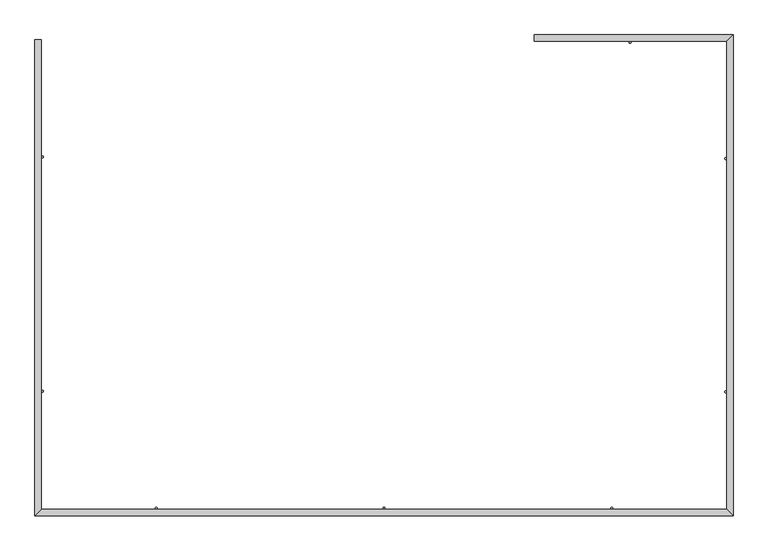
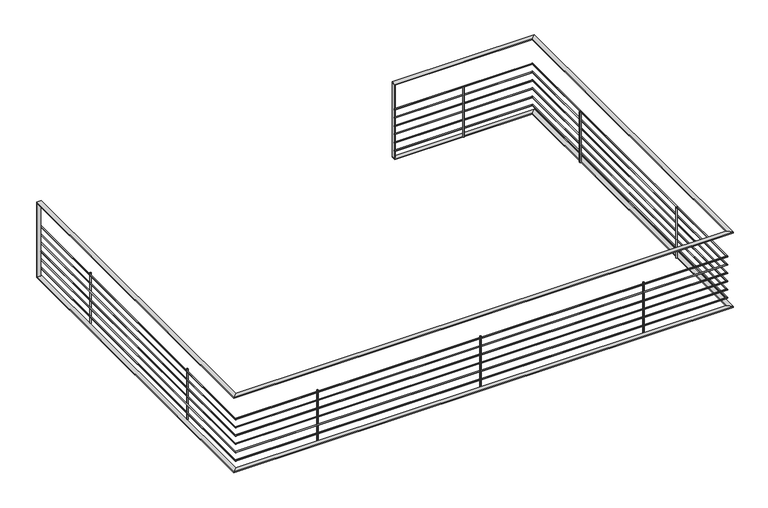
"""IFC4 building model written with IfcOpenShell, lengths in millimetres: railing geometry, Pletina y tubos."""

from ifc_helpers import new_model, si_unit, point, frame, frame_2d, origin, place, context, project, spatial, polyline, circle_curve, ellipse_curve, trimmed, segment, composite_curve, outline, extrude, faceted_brep, source, transform, mapped, element, save
from ifc_brep_helpers import plane_surface, cylinder_surface, advanced_brep


def railing_21b3ba1f(model_context):
    return source(origin(), model_context, "Body", "SolidModel", [
        faceted_brep([(-2143.1025942, -8292.6669037, 6310.0), (-2093.1025942, -8292.6669037, 6310.0), (-2093.1025942, -8292.6669037, 6300.0), (-2143.1025942, -8292.6669037, 6300.0), (-2143.1025942, -12182.6669037, 6310.0), (-2093.1025942, -12132.6669037, 6310.0), (-2093.1025942, -12132.6669037, 6300.0), (-2143.1025942, -12182.6669037, 6300.0), (3558.9398199, -12182.6669037, 6310.0), (3508.9398199, -12132.6669037, 6310.0), (3508.9398199, -12132.6669037, 6300.0), (3558.9398199, -12182.6669037, 6300.0), (3558.9398199, -8252.6669037, 6310.0), (3508.9398199, -8302.6669037, 6310.0), (3508.9398199, -8302.6669037, 6300.0), (3558.9398199, -8252.6669037, 6300.0), (1935.5350958, -8252.6669037, 6310.0), (1935.5350958, -8252.6669037, 6300.0), (1935.5350958, -8302.6669037, 6300.0), (1935.5350958, -8302.6669037, 6310.0)], [[[0, 1, 2, 3]], [[1, 0, 4, 5]], [[2, 1, 5, 6]], [[3, 2, 6, 7]], [[0, 3, 7, 4]], [[5, 4, 8, 9]], [[6, 5, 9, 10]], [[7, 6, 10, 11]], [[4, 7, 11, 8]], [[9, 8, 12, 13]], [[10, 9, 13, 14]], [[11, 10, 14, 15]], [[8, 11, 15, 12]], [[16, 17, 18, 19]], [[13, 12, 16, 19]], [[14, 13, 19, 18]], [[15, 14, 18, 17]], [[12, 15, 17, 16]]]),
        advanced_brep(
        [(-2092.1025942, -8292.6669037, 6405.0), (-2104.1025942, -8292.6669037, 6405.0), (-2092.1025942, -12131.6669037, 6405.0), (-2104.1025942, -12143.6669037, 6405.0), (3507.9398199, -12131.6669037, 6405.0), (3519.9398199, -12143.6669037, 6405.0), (3507.9398199, -8303.6669037, 6405.0), (3519.9398199, -8291.6669037, 6405.0), (1935.5350958, -8303.6669037, 6405.0), (1935.5350958, -8291.6669037, 6405.0)],
        [
            (0, 1, circle_curve(frame((-2098.1025942, -8292.6669037, 6405.0), z_axis=(0.0, 1.0, 0.0), x_axis=(-1.0, 0.0, 0.0)), 6.0)),
            (1, 0, circle_curve(frame((-2098.1025942, -8292.6669037, 6405.0), z_axis=(0.0, 1.0, 0.0), x_axis=(-1.0, 0.0, 0.0)), 6.0)),
            (0, 2),
            (2, 3, ellipse_curve(frame((-2098.1025942, -12137.6669037, 6405.0), z_axis=(-0.7071067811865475, 0.7071067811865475, 0.0), x_axis=(0.7071067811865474, 0.7071067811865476, 0.0)), 8.4852814, 6.0)),
            (3, 1),
            (3, 2, ellipse_curve(frame((-2098.1025942, -12137.6669037, 6405.0), z_axis=(-0.7071067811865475, 0.7071067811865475, 0.0), x_axis=(0.7071067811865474, 0.7071067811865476, 0.0)), 8.4852814, 6.0)),
            (2, 4),
            (4, 5, ellipse_curve(frame((3513.9398199, -12137.6669037, 6405.0), z_axis=(-0.7071067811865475, -0.7071067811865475, 0.0), x_axis=(-0.7071067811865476, 0.7071067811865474, 0.0)), 8.4852814, 6.0)),
            (5, 3),
            (5, 4, ellipse_curve(frame((3513.9398199, -12137.6669037, 6405.0), z_axis=(-0.7071067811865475, -0.7071067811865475, 0.0), x_axis=(-0.7071067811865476, 0.7071067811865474, 0.0)), 8.4852814, 6.0)),
            (4, 6),
            (6, 7, ellipse_curve(frame((3513.9398199, -8297.6669037, 6405.0), z_axis=(0.7071067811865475, -0.7071067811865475, 0.0), x_axis=(-0.7071067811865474, -0.7071067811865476, 0.0)), 8.4852814, 6.0)),
            (7, 5),
            (7, 6, ellipse_curve(frame((3513.9398199, -8297.6669037, 6405.0), z_axis=(0.7071067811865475, -0.7071067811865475, 0.0), x_axis=(-0.7071067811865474, -0.7071067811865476, 0.0)), 8.4852814, 6.0)),
            (8, 9, circle_curve(frame((1935.5350958, -8297.6669037, 6405.0), z_axis=(-1.0, 0.0, 0.0), x_axis=(0.0, 1.0, 0.0)), 6.0)),
            (9, 8, circle_curve(frame((1935.5350958, -8297.6669037, 6405.0), z_axis=(-1.0, 0.0, 0.0), x_axis=(0.0, 1.0, 0.0)), 6.0)),
            (6, 8),
            (9, 7),
        ],
        [
            plane_surface(frame((-2098.1025942, -8292.6669037, 6405.0), z_axis=(0.0, 1.0, 0.0), x_axis=(0.0, 0.0, -1.0))),
            cylinder_surface(frame((-2098.1025942, -8292.6669037, 6405.0), z_axis=(0.0, 1.0, 0.0), x_axis=(-1.0, 0.0, 0.0)), 6.0),
            cylinder_surface(frame((-2098.1025942, -12137.6669037, 6405.0), z_axis=(-1.0, 0.0, 0.0), x_axis=(0.0, -1.0, 0.0)), 6.0),
            cylinder_surface(frame((3513.9398199, -12137.6669037, 6405.0), z_axis=(0.0, -1.0, 0.0), x_axis=(1.0, 0.0, 0.0)), 6.0),
            plane_surface(frame((1935.5350958, -8297.6669037, 6405.0), z_axis=(-1.0, 0.0, 0.0), x_axis=(0.0, -1.0, 0.0))),
            cylinder_surface(frame((3513.9398199, -8297.6669037, 6405.0), z_axis=(1.0, 0.0, 0.0), x_axis=(0.0, 1.0, 0.0)), 6.0),
        ],
        [
            (0, [[1, 2]]),
            (1, [[-1, 3, 4, 5]]),
            (1, [[-2, -5, 6, -3]]),
            (2, [[-4, 7, 8, 9]]),
            (2, [[-6, -9, 10, -7]]),
            (3, [[-8, 11, 12, 13]]),
            (3, [[-10, -13, 14, -11]]),
            (4, [[15, 16]]),
            (5, [[-12, 17, -16, 18]]),
            (5, [[-14, -18, -15, -17]]),
        ],
    ),
        advanced_brep(
        [(-2092.1025942, -8292.6669037, 6505.0), (-2104.1025942, -8292.6669037, 6505.0), (-2092.1025942, -12131.6669037, 6505.0), (-2104.1025942, -12143.6669037, 6505.0), (3507.9398199, -12131.6669037, 6505.0), (3519.9398199, -12143.6669037, 6505.0), (3507.9398199, -8303.6669037, 6505.0), (3519.9398199, -8291.6669037, 6505.0), (1935.5350958, -8303.6669037, 6505.0), (1935.5350958, -8291.6669037, 6505.0)],
        [
            (0, 1, circle_curve(frame((-2098.1025942, -8292.6669037, 6505.0), z_axis=(0.0, 1.0, 0.0), x_axis=(-1.0, 0.0, 0.0)), 6.0)),
            (1, 0, circle_curve(frame((-2098.1025942, -8292.6669037, 6505.0), z_axis=(0.0, 1.0, 0.0), x_axis=(-1.0, 0.0, 0.0)), 6.0)),
            (0, 2),
            (2, 3, ellipse_curve(frame((-2098.1025942, -12137.6669037, 6505.0), z_axis=(-0.7071067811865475, 0.7071067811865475, 0.0), x_axis=(0.7071067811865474, 0.7071067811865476, 0.0)), 8.4852814, 6.0)),
            (3, 1),
            (3, 2, ellipse_curve(frame((-2098.1025942, -12137.6669037, 6505.0), z_axis=(-0.7071067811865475, 0.7071067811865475, 0.0), x_axis=(0.7071067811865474, 0.7071067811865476, 0.0)), 8.4852814, 6.0)),
            (2, 4),
            (4, 5, ellipse_curve(frame((3513.9398199, -12137.6669037, 6505.0), z_axis=(-0.7071067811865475, -0.7071067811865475, 0.0), x_axis=(-0.7071067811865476, 0.7071067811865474, 0.0)), 8.4852814, 6.0)),
            (5, 3),
            (5, 4, ellipse_curve(frame((3513.9398199, -12137.6669037, 6505.0), z_axis=(-0.7071067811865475, -0.7071067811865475, 0.0), x_axis=(-0.7071067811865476, 0.7071067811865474, 0.0)), 8.4852814, 6.0)),
            (4, 6),
            (6, 7, ellipse_curve(frame((3513.9398199, -8297.6669037, 6505.0), z_axis=(0.7071067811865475, -0.7071067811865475, 0.0), x_axis=(-0.7071067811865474, -0.7071067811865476, 0.0)), 8.4852814, 6.0)),
            (7, 5),
            (7, 6, ellipse_curve(frame((3513.9398199, -8297.6669037, 6505.0), z_axis=(0.7071067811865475, -0.7071067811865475, 0.0), x_axis=(-0.7071067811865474, -0.7071067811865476, 0.0)), 8.4852814, 6.0)),
            (8, 9, circle_curve(frame((1935.5350958, -8297.6669037, 6505.0), z_axis=(-1.0, 0.0, 0.0), x_axis=(0.0, 1.0, 0.0)), 6.0)),
            (9, 8, circle_curve(frame((1935.5350958, -8297.6669037, 6505.0), z_axis=(-1.0, 0.0, 0.0), x_axis=(0.0, 1.0, 0.0)), 6.0)),
            (6, 8),
            (9, 7),
        ],
        [
            plane_surface(frame((-2098.1025942, -8292.6669037, 6505.0), z_axis=(0.0, 1.0, 0.0), x_axis=(0.0, 0.0, -1.0))),
            cylinder_surface(frame((-2098.1025942, -8292.6669037, 6505.0), z_axis=(0.0, 1.0, 0.0), x_axis=(-1.0, 0.0, 0.0)), 6.0),
            cylinder_surface(frame((-2098.1025942, -12137.6669037, 6505.0), z_axis=(-1.0, 0.0, 0.0), x_axis=(0.0, -1.0, 0.0)), 6.0),
            cylinder_surface(frame((3513.9398199, -12137.6669037, 6505.0), z_axis=(0.0, -1.0, 0.0), x_axis=(1.0, 0.0, 0.0)), 6.0),
            plane_surface(frame((1935.5350958, -8297.6669037, 6505.0), z_axis=(-1.0, 0.0, 0.0), x_axis=(0.0, -1.0, 0.0))),
            cylinder_surface(frame((3513.9398199, -8297.6669037, 6505.0), z_axis=(1.0, 0.0, 0.0), x_axis=(0.0, 1.0, 0.0)), 6.0),
        ],
        [
            (0, [[1, 2]]),
            (1, [[-1, 3, 4, 5]]),
            (1, [[-2, -5, 6, -3]]),
            (2, [[-4, 7, 8, 9]]),
            (2, [[-6, -9, 10, -7]]),
            (3, [[-8, 11, 12, 13]]),
            (3, [[-10, -13, 14, -11]]),
            (4, [[15, 16]]),
            (5, [[-12, 17, -16, 18]]),
            (5, [[-14, -18, -15, -17]]),
        ],
    ),
        advanced_brep(
        [(-2092.1025942, -8292.6669037, 6605.0), (-2104.1025942, -8292.6669037, 6605.0), (-2092.1025942, -12131.6669037, 6605.0), (-2104.1025942, -12143.6669037, 6605.0), (3507.9398199, -12131.6669037, 6605.0), (3519.9398199, -12143.6669037, 6605.0), (3507.9398199, -8303.6669037, 6605.0), (3519.9398199, -8291.6669037, 6605.0), (1935.5350958, -8303.6669037, 6605.0), (1935.5350958, -8291.6669037, 6605.0)],
        [
            (0, 1, circle_curve(frame((-2098.1025942, -8292.6669037, 6605.0), z_axis=(0.0, 1.0, 0.0), x_axis=(-1.0, 0.0, 0.0)), 6.0)),
            (1, 0, circle_curve(frame((-2098.1025942, -8292.6669037, 6605.0), z_axis=(0.0, 1.0, 0.0), x_axis=(-1.0, 0.0, 0.0)), 6.0)),
            (0, 2),
            (2, 3, ellipse_curve(frame((-2098.1025942, -12137.6669037, 6605.0), z_axis=(-0.7071067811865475, 0.7071067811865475, 0.0), x_axis=(0.7071067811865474, 0.7071067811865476, 0.0)), 8.4852814, 6.0)),
            (3, 1),
            (3, 2, ellipse_curve(frame((-2098.1025942, -12137.6669037, 6605.0), z_axis=(-0.7071067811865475, 0.7071067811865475, 0.0), x_axis=(0.7071067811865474, 0.7071067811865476, 0.0)), 8.4852814, 6.0)),
            (2, 4),
            (4, 5, ellipse_curve(frame((3513.9398199, -12137.6669037, 6605.0), z_axis=(-0.7071067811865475, -0.7071067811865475, 0.0), x_axis=(-0.7071067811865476, 0.7071067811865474, 0.0)), 8.4852814, 6.0)),
            (5, 3),
            (5, 4, ellipse_curve(frame((3513.9398199, -12137.6669037, 6605.0), z_axis=(-0.7071067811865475, -0.7071067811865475, 0.0), x_axis=(-0.7071067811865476, 0.7071067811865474, 0.0)), 8.4852814, 6.0)),
            (4, 6),
            (6, 7, ellipse_curve(frame((3513.9398199, -8297.6669037, 6605.0), z_axis=(0.7071067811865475, -0.7071067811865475, 0.0), x_axis=(-0.7071067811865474, -0.7071067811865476, 0.0)), 8.4852814, 6.0)),
            (7, 5),
            (7, 6, ellipse_curve(frame((3513.9398199, -8297.6669037, 6605.0), z_axis=(0.7071067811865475, -0.7071067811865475, 0.0), x_axis=(-0.7071067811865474, -0.7071067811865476, 0.0)), 8.4852814, 6.0)),
            (8, 9, circle_curve(frame((1935.5350958, -8297.6669037, 6605.0), z_axis=(-1.0, 0.0, 0.0), x_axis=(0.0, 1.0, 0.0)), 6.0)),
            (9, 8, circle_curve(frame((1935.5350958, -8297.6669037, 6605.0), z_axis=(-1.0, 0.0, 0.0), x_axis=(0.0, 1.0, 0.0)), 6.0)),
            (6, 8),
            (9, 7),
        ],
        [
            plane_surface(frame((-2098.1025942, -8292.6669037, 6605.0), z_axis=(0.0, 1.0, 0.0), x_axis=(0.0, 0.0, -1.0))),
            cylinder_surface(frame((-2098.1025942, -8292.6669037, 6605.0), z_axis=(0.0, 1.0, 0.0), x_axis=(-1.0, 0.0, 0.0)), 6.0),
            cylinder_surface(frame((-2098.1025942, -12137.6669037, 6605.0), z_axis=(-1.0, 0.0, 0.0), x_axis=(0.0, -1.0, 0.0)), 6.0),
            cylinder_surface(frame((3513.9398199, -12137.6669037, 6605.0), z_axis=(0.0, -1.0, 0.0), x_axis=(1.0, 0.0, 0.0)), 6.0),
            plane_surface(frame((1935.5350958, -8297.6669037, 6605.0), z_axis=(-1.0, 0.0, 0.0), x_axis=(0.0, -1.0, 0.0))),
            cylinder_surface(frame((3513.9398199, -8297.6669037, 6605.0), z_axis=(1.0, 0.0, 0.0), x_axis=(0.0, 1.0, 0.0)), 6.0),
        ],
        [
            (0, [[1, 2]]),
            (1, [[-1, 3, 4, 5]]),
            (1, [[-2, -5, 6, -3]]),
            (2, [[-4, 7, 8, 9]]),
            (2, [[-6, -9, 10, -7]]),
            (3, [[-8, 11, 12, 13]]),
            (3, [[-10, -13, 14, -11]]),
            (4, [[15, 16]]),
            (5, [[-12, 17, -16, 18]]),
            (5, [[-14, -18, -15, -17]]),
        ],
    ),
        advanced_brep(
        [(-2092.1025942, -8292.6669037, 6705.0), (-2104.1025942, -8292.6669037, 6705.0), (-2092.1025942, -12131.6669037, 6705.0), (-2104.1025942, -12143.6669037, 6705.0), (3507.9398199, -12131.6669037, 6705.0), (3519.9398199, -12143.6669037, 6705.0), (3507.9398199, -8303.6669037, 6705.0), (3519.9398199, -8291.6669037, 6705.0), (1935.5350958, -8303.6669037, 6705.0), (1935.5350958, -8291.6669037, 6705.0)],
        [
            (0, 1, circle_curve(frame((-2098.1025942, -8292.6669037, 6705.0), z_axis=(0.0, 1.0, 0.0), x_axis=(-1.0, 0.0, 0.0)), 6.0)),
            (1, 0, circle_curve(frame((-2098.1025942, -8292.6669037, 6705.0), z_axis=(0.0, 1.0, 0.0), x_axis=(-1.0, 0.0, 0.0)), 6.0)),
            (0, 2),
            (2, 3, ellipse_curve(frame((-2098.1025942, -12137.6669037, 6705.0), z_axis=(-0.7071067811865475, 0.7071067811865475, 0.0), x_axis=(0.7071067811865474, 0.7071067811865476, 0.0)), 8.4852814, 6.0)),
            (3, 1),
            (3, 2, ellipse_curve(frame((-2098.1025942, -12137.6669037, 6705.0), z_axis=(-0.7071067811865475, 0.7071067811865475, 0.0), x_axis=(0.7071067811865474, 0.7071067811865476, 0.0)), 8.4852814, 6.0)),
            (2, 4),
            (4, 5, ellipse_curve(frame((3513.9398199, -12137.6669037, 6705.0), z_axis=(-0.7071067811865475, -0.7071067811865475, 0.0), x_axis=(-0.7071067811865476, 0.7071067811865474, 0.0)), 8.4852814, 6.0)),
            (5, 3),
            (5, 4, ellipse_curve(frame((3513.9398199, -12137.6669037, 6705.0), z_axis=(-0.7071067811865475, -0.7071067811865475, 0.0), x_axis=(-0.7071067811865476, 0.7071067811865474, 0.0)), 8.4852814, 6.0)),
            (4, 6),
            (6, 7, ellipse_curve(frame((3513.9398199, -8297.6669037, 6705.0), z_axis=(0.7071067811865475, -0.7071067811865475, 0.0), x_axis=(-0.7071067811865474, -0.7071067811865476, 0.0)), 8.4852814, 6.0)),
            (7, 5),
            (7, 6, ellipse_curve(frame((3513.9398199, -8297.6669037, 6705.0), z_axis=(0.7071067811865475, -0.7071067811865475, 0.0), x_axis=(-0.7071067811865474, -0.7071067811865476, 0.0)), 8.4852814, 6.0)),
            (8, 9, circle_curve(frame((1935.5350958, -8297.6669037, 6705.0), z_axis=(-1.0, 0.0, 0.0), x_axis=(0.0, 1.0, 0.0)), 6.0)),
            (9, 8, circle_curve(frame((1935.5350958, -8297.6669037, 6705.0), z_axis=(-1.0, 0.0, 0.0), x_axis=(0.0, 1.0, 0.0)), 6.0)),
            (6, 8),
            (9, 7),
        ],
        [
            plane_surface(frame((-2098.1025942, -8292.6669037, 6705.0), z_axis=(0.0, 1.0, 0.0), x_axis=(0.0, 0.0, -1.0))),
            cylinder_surface(frame((-2098.1025942, -8292.6669037, 6705.0), z_axis=(0.0, 1.0, 0.0), x_axis=(-1.0, 0.0, 0.0)), 6.0),
            cylinder_surface(frame((-2098.1025942, -12137.6669037, 6705.0), z_axis=(-1.0, 0.0, 0.0), x_axis=(0.0, -1.0, 0.0)), 6.0),
            cylinder_surface(frame((3513.9398199, -12137.6669037, 6705.0), z_axis=(0.0, -1.0, 0.0), x_axis=(1.0, 0.0, 0.0)), 6.0),
            plane_surface(frame((1935.5350958, -8297.6669037, 6705.0), z_axis=(-1.0, 0.0, 0.0), x_axis=(0.0, -1.0, 0.0))),
            cylinder_surface(frame((3513.9398199, -8297.6669037, 6705.0), z_axis=(1.0, 0.0, 0.0), x_axis=(0.0, 1.0, 0.0)), 6.0),
        ],
        [
            (0, [[1, 2]]),
            (1, [[-1, 3, 4, 5]]),
            (1, [[-2, -5, 6, -3]]),
            (2, [[-4, 7, 8, 9]]),
            (2, [[-6, -9, 10, -7]]),
            (3, [[-8, 11, 12, 13]]),
            (3, [[-10, -13, 14, -11]]),
            (4, [[15, 16]]),
            (5, [[-12, 17, -16, 18]]),
            (5, [[-14, -18, -15, -17]]),
        ],
    ),
        advanced_brep(
        [(-2092.1025942, -8292.6669037, 6805.0), (-2104.1025942, -8292.6669037, 6805.0), (-2092.1025942, -12131.6669037, 6805.0), (-2104.1025942, -12143.6669037, 6805.0), (3507.9398199, -12131.6669037, 6805.0), (3519.9398199, -12143.6669037, 6805.0), (3507.9398199, -8303.6669037, 6805.0), (3519.9398199, -8291.6669037, 6805.0), (1935.5350958, -8303.6669037, 6805.0), (1935.5350958, -8291.6669037, 6805.0)],
        [
            (0, 1, circle_curve(frame((-2098.1025942, -8292.6669037, 6805.0), z_axis=(0.0, 1.0, 0.0), x_axis=(-1.0, 0.0, 0.0)), 6.0)),
            (1, 0, circle_curve(frame((-2098.1025942, -8292.6669037, 6805.0), z_axis=(0.0, 1.0, 0.0), x_axis=(-1.0, 0.0, 0.0)), 6.0)),
            (0, 2),
            (2, 3, ellipse_curve(frame((-2098.1025942, -12137.6669037, 6805.0), z_axis=(-0.7071067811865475, 0.7071067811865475, 0.0), x_axis=(0.7071067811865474, 0.7071067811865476, 0.0)), 8.4852814, 6.0)),
            (3, 1),
            (3, 2, ellipse_curve(frame((-2098.1025942, -12137.6669037, 6805.0), z_axis=(-0.7071067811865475, 0.7071067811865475, 0.0), x_axis=(0.7071067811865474, 0.7071067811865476, 0.0)), 8.4852814, 6.0)),
            (2, 4),
            (4, 5, ellipse_curve(frame((3513.9398199, -12137.6669037, 6805.0), z_axis=(-0.7071067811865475, -0.7071067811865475, 0.0), x_axis=(-0.7071067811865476, 0.7071067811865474, 0.0)), 8.4852814, 6.0)),
            (5, 3),
            (5, 4, ellipse_curve(frame((3513.9398199, -12137.6669037, 6805.0), z_axis=(-0.7071067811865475, -0.7071067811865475, 0.0), x_axis=(-0.7071067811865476, 0.7071067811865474, 0.0)), 8.4852814, 6.0)),
            (4, 6),
            (6, 7, ellipse_curve(frame((3513.9398199, -8297.6669037, 6805.0), z_axis=(0.7071067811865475, -0.7071067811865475, 0.0), x_axis=(-0.7071067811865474, -0.7071067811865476, 0.0)), 8.4852814, 6.0)),
            (7, 5),
            (7, 6, ellipse_curve(frame((3513.9398199, -8297.6669037, 6805.0), z_axis=(0.7071067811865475, -0.7071067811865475, 0.0), x_axis=(-0.7071067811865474, -0.7071067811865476, 0.0)), 8.4852814, 6.0)),
            (8, 9, circle_curve(frame((1935.5350958, -8297.6669037, 6805.0), z_axis=(-1.0, 0.0, 0.0), x_axis=(0.0, 1.0, 0.0)), 6.0)),
            (9, 8, circle_curve(frame((1935.5350958, -8297.6669037, 6805.0), z_axis=(-1.0, 0.0, 0.0), x_axis=(0.0, 1.0, 0.0)), 6.0)),
            (6, 8),
            (9, 7),
        ],
        [
            plane_surface(frame((-2098.1025942, -8292.6669037, 6805.0), z_axis=(0.0, 1.0, 0.0), x_axis=(0.0, 0.0, -1.0))),
            cylinder_surface(frame((-2098.1025942, -8292.6669037, 6805.0), z_axis=(0.0, 1.0, 0.0), x_axis=(-1.0, 0.0, 0.0)), 6.0),
            cylinder_surface(frame((-2098.1025942, -12137.6669037, 6805.0), z_axis=(-1.0, 0.0, 0.0), x_axis=(0.0, -1.0, 0.0)), 6.0),
            cylinder_surface(frame((3513.9398199, -12137.6669037, 6805.0), z_axis=(0.0, -1.0, 0.0), x_axis=(1.0, 0.0, 0.0)), 6.0),
            plane_surface(frame((1935.5350958, -8297.6669037, 6805.0), z_axis=(-1.0, 0.0, 0.0), x_axis=(0.0, -1.0, 0.0))),
            cylinder_surface(frame((3513.9398199, -8297.6669037, 6805.0), z_axis=(1.0, 0.0, 0.0), x_axis=(0.0, 1.0, 0.0)), 6.0),
        ],
        [
            (0, [[1, 2]]),
            (1, [[-1, 3, 4, 5]]),
            (1, [[-2, -5, 6, -3]]),
            (2, [[-4, 7, 8, 9]]),
            (2, [[-6, -9, 10, -7]]),
            (3, [[-8, 11, 12, 13]]),
            (3, [[-10, -13, 14, -11]]),
            (4, [[15, 16]]),
            (5, [[-12, 17, -16, 18]]),
            (5, [[-14, -18, -15, -17]]),
        ],
    ),
        advanced_brep(
        [(-2092.1025942, -8292.6669037, 6905.0), (-2104.1025942, -8292.6669037, 6905.0), (-2092.1025942, -12131.6669037, 6905.0), (-2104.1025942, -12143.6669037, 6905.0), (3507.9398199, -12131.6669037, 6905.0), (3519.9398199, -12143.6669037, 6905.0), (3507.9398199, -8303.6669037, 6905.0), (3519.9398199, -8291.6669037, 6905.0), (1935.5350958, -8303.6669037, 6905.0), (1935.5350958, -8291.6669037, 6905.0)],
        [
            (0, 1, circle_curve(frame((-2098.1025942, -8292.6669037, 6905.0), z_axis=(0.0, 1.0, 0.0), x_axis=(-1.0, 0.0, 0.0)), 6.0)),
            (1, 0, circle_curve(frame((-2098.1025942, -8292.6669037, 6905.0), z_axis=(0.0, 1.0, 0.0), x_axis=(-1.0, 0.0, 0.0)), 6.0)),
            (0, 2),
            (2, 3, ellipse_curve(frame((-2098.1025942, -12137.6669037, 6905.0), z_axis=(-0.7071067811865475, 0.7071067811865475, 0.0), x_axis=(0.7071067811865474, 0.7071067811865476, 0.0)), 8.4852814, 6.0)),
            (3, 1),
            (3, 2, ellipse_curve(frame((-2098.1025942, -12137.6669037, 6905.0), z_axis=(-0.7071067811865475, 0.7071067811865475, 0.0), x_axis=(0.7071067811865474, 0.7071067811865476, 0.0)), 8.4852814, 6.0)),
            (2, 4),
            (4, 5, ellipse_curve(frame((3513.9398199, -12137.6669037, 6905.0), z_axis=(-0.7071067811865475, -0.7071067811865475, 0.0), x_axis=(-0.7071067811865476, 0.7071067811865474, 0.0)), 8.4852814, 6.0)),
            (5, 3),
            (5, 4, ellipse_curve(frame((3513.9398199, -12137.6669037, 6905.0), z_axis=(-0.7071067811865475, -0.7071067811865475, 0.0), x_axis=(-0.7071067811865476, 0.7071067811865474, 0.0)), 8.4852814, 6.0)),
            (4, 6),
            (6, 7, ellipse_curve(frame((3513.9398199, -8297.6669037, 6905.0), z_axis=(0.7071067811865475, -0.7071067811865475, 0.0), x_axis=(-0.7071067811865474, -0.7071067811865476, 0.0)), 8.4852814, 6.0)),
            (7, 5),
            (7, 6, ellipse_curve(frame((3513.9398199, -8297.6669037, 6905.0), z_axis=(0.7071067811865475, -0.7071067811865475, 0.0), x_axis=(-0.7071067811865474, -0.7071067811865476, 0.0)), 8.4852814, 6.0)),
            (8, 9, circle_curve(frame((1935.5350958, -8297.6669037, 6905.0), z_axis=(-1.0, 0.0, 0.0), x_axis=(0.0, 1.0, 0.0)), 6.0)),
            (9, 8, circle_curve(frame((1935.5350958, -8297.6669037, 6905.0), z_axis=(-1.0, 0.0, 0.0), x_axis=(0.0, 1.0, 0.0)), 6.0)),
            (6, 8),
            (9, 7),
        ],
        [
            plane_surface(frame((-2098.1025942, -8292.6669037, 6905.0), z_axis=(0.0, 1.0, 0.0), x_axis=(0.0, 0.0, -1.0))),
            cylinder_surface(frame((-2098.1025942, -8292.6669037, 6905.0), z_axis=(0.0, 1.0, 0.0), x_axis=(-1.0, 0.0, 0.0)), 6.0),
            cylinder_surface(frame((-2098.1025942, -12137.6669037, 6905.0), z_axis=(-1.0, 0.0, 0.0), x_axis=(0.0, -1.0, 0.0)), 6.0),
            cylinder_surface(frame((3513.9398199, -12137.6669037, 6905.0), z_axis=(0.0, -1.0, 0.0), x_axis=(1.0, 0.0, 0.0)), 6.0),
            plane_surface(frame((1935.5350958, -8297.6669037, 6905.0), z_axis=(-1.0, 0.0, 0.0), x_axis=(0.0, -1.0, 0.0))),
            cylinder_surface(frame((3513.9398199, -8297.6669037, 6905.0), z_axis=(1.0, 0.0, 0.0), x_axis=(0.0, 1.0, 0.0)), 6.0),
        ],
        [
            (0, [[1, 2]]),
            (1, [[-1, 3, 4, 5]]),
            (1, [[-2, -5, 6, -3]]),
            (2, [[-4, 7, 8, 9]]),
            (2, [[-6, -9, 10, -7]]),
            (3, [[-8, 11, 12, 13]]),
            (3, [[-10, -13, 14, -11]]),
            (4, [[15, 16]]),
            (5, [[-12, 17, -16, 18]]),
            (5, [[-14, -18, -15, -17]]),
        ],
    ),
        faceted_brep([(-2143.1025942, -8292.6669037, 7210.0), (-2093.1025942, -8292.6669037, 7210.0), (-2093.1025942, -8292.6669037, 7200.0), (-2143.1025942, -8292.6669037, 7200.0), (-2143.1025942, -12182.6669037, 7210.0), (-2093.1025942, -12132.6669037, 7210.0), (-2093.1025942, -12132.6669037, 7200.0), (-2143.1025942, -12182.6669037, 7200.0), (3558.9398199, -12182.6669037, 7210.0), (3508.9398199, -12132.6669037, 7210.0), (3508.9398199, -12132.6669037, 7200.0), (3558.9398199, -12182.6669037, 7200.0), (3558.9398199, -8252.6669037, 7210.0), (3508.9398199, -8302.6669037, 7210.0), (3508.9398199, -8302.6669037, 7200.0), (3558.9398199, -8252.6669037, 7200.0), (1935.5350958, -8252.6669037, 7210.0), (1935.5350958, -8252.6669037, 7200.0), (1935.5350958, -8302.6669037, 7200.0), (1935.5350958, -8302.6669037, 7210.0)], [[[0, 1, 2, 3]], [[1, 0, 4, 5]], [[2, 1, 5, 6]], [[3, 2, 6, 7]], [[0, 3, 7, 4]], [[5, 4, 8, 9]], [[6, 5, 9, 10]], [[7, 6, 10, 11]], [[4, 7, 11, 8]], [[9, 8, 12, 13]], [[10, 9, 13, 14]], [[11, 10, 14, 15]], [[8, 11, 15, 12]], [[16, 17, 18, 19]], [[13, 12, 16, 19]], [[14, 13, 19, 18]], [[15, 14, 18, 17]], [[12, 15, 17, 16]]]),
        extrude(outline(composite_curve([segment(trimmed(circle_curve(frame_2d((2717.2374579, -8312.6669037)), 8.0), [point((2717.2374579, -8320.6669037))], [point((2717.2374579, -8304.6669037))], False, "CARTESIAN"), True, "CONTINUOUS"), segment(trimmed(circle_curve(frame_2d((2717.2374579, -8312.6669037)), 8.0), [point((2717.2374579, -8304.6669037))], [point((2717.2374579, -8320.6669037))], False, "CARTESIAN"), True, "CONTINUOUS")], self_intersect=False)), frame((0.0, 0.0, 6310.0), z_axis=(0.0, 0.0, 1.0), x_axis=(1.0, 0.0, 0.0)), (0.0, 0.0, 1.0), 605.0),
        extrude(outline(composite_curve([segment(trimmed(circle_curve(frame_2d((3498.9398199, -9265.1669037)), 8.0), [point((3490.9398199, -9265.1669037))], [point((3506.9398199, -9265.1669037))], False, "CARTESIAN"), True, "CONTINUOUS"), segment(trimmed(circle_curve(frame_2d((3498.9398199, -9265.1669037)), 8.0), [point((3506.9398199, -9265.1669037))], [point((3490.9398199, -9265.1669037))], False, "CARTESIAN"), True, "CONTINUOUS")], self_intersect=False)), frame((0.0, 0.0, 6310.0), z_axis=(0.0, 0.0, 1.0), x_axis=(1.0, 0.0, 0.0)), (0.0, 0.0, 1.0), 605.0),
        extrude(outline(composite_curve([segment(trimmed(circle_curve(frame_2d((3498.9398199, -11170.1669037)), 8.0), [point((3490.9398199, -11170.1669037))], [point((3506.9398199, -11170.1669037))], False, "CARTESIAN"), True, "CONTINUOUS"), segment(trimmed(circle_curve(frame_2d((3498.9398199, -11170.1669037)), 8.0), [point((3506.9398199, -11170.1669037))], [point((3490.9398199, -11170.1669037))], False, "CARTESIAN"), True, "CONTINUOUS")], self_intersect=False)), frame((0.0, 0.0, 6310.0), z_axis=(0.0, 0.0, 1.0), x_axis=(1.0, 0.0, 0.0)), (0.0, 0.0, 1.0), 605.0),
        extrude(outline(composite_curve([segment(trimmed(circle_curve(frame_2d((2568.5994176, -12122.6669037)), 8.0), [point((2568.5994176, -12114.6669037))], [point((2568.5994176, -12130.6669037))], False, "CARTESIAN"), True, "CONTINUOUS"), segment(trimmed(circle_curve(frame_2d((2568.5994176, -12122.6669037)), 8.0), [point((2568.5994176, -12130.6669037))], [point((2568.5994176, -12114.6669037))], False, "CARTESIAN"), True, "CONTINUOUS")], self_intersect=False)), frame((0.0, 0.0, 6310.0), z_axis=(0.0, 0.0, 1.0), x_axis=(1.0, 0.0, 0.0)), (0.0, 0.0, 1.0), 605.0),
        extrude(outline(composite_curve([segment(trimmed(circle_curve(frame_2d((707.9186129, -12122.6669037)), 8.0), [point((707.9186129, -12114.6669037))], [point((707.9186129, -12130.6669037))], False, "CARTESIAN"), True, "CONTINUOUS"), segment(trimmed(circle_curve(frame_2d((707.9186129, -12122.6669037)), 8.0), [point((707.9186129, -12130.6669037))], [point((707.9186129, -12114.6669037))], False, "CARTESIAN"), True, "CONTINUOUS")], self_intersect=False)), frame((0.0, 0.0, 6310.0), z_axis=(0.0, 0.0, 1.0), x_axis=(1.0, 0.0, 0.0)), (0.0, 0.0, 1.0), 605.0),
        extrude(outline(composite_curve([segment(trimmed(circle_curve(frame_2d((-1152.7621918, -12122.6669037)), 8.0), [point((-1152.7621918, -12114.6669037))], [point((-1152.7621918, -12130.6669037))], False, "CARTESIAN"), True, "CONTINUOUS"), segment(trimmed(circle_curve(frame_2d((-1152.7621918, -12122.6669037)), 8.0), [point((-1152.7621918, -12130.6669037))], [point((-1152.7621918, -12114.6669037))], False, "CARTESIAN"), True, "CONTINUOUS")], self_intersect=False)), frame((0.0, 0.0, 6310.0), z_axis=(0.0, 0.0, 1.0), x_axis=(1.0, 0.0, 0.0)), (0.0, 0.0, 1.0), 605.0),
        extrude(outline(composite_curve([segment(trimmed(circle_curve(frame_2d((-2083.1025942, -11165.1669037)), 8.0), [point((-2075.1025942, -11165.1669037))], [point((-2091.1025942, -11165.1669037))], False, "CARTESIAN"), True, "CONTINUOUS"), segment(trimmed(circle_curve(frame_2d((-2083.1025942, -11165.1669037)), 8.0), [point((-2091.1025942, -11165.1669037))], [point((-2075.1025942, -11165.1669037))], False, "CARTESIAN"), True, "CONTINUOUS")], self_intersect=False)), frame((0.0, 0.0, 6310.0), z_axis=(0.0, 0.0, 1.0), x_axis=(1.0, 0.0, 0.0)), (0.0, 0.0, 1.0), 605.0),
        extrude(outline(composite_curve([segment(trimmed(circle_curve(frame_2d((-2083.1025942, -9250.1669037)), 8.0), [point((-2075.1025942, -9250.1669037))], [point((-2091.1025942, -9250.1669037))], False, "CARTESIAN"), True, "CONTINUOUS"), segment(trimmed(circle_curve(frame_2d((-2083.1025942, -9250.1669037)), 8.0), [point((-2091.1025942, -9250.1669037))], [point((-2075.1025942, -9250.1669037))], False, "CARTESIAN"), True, "CONTINUOUS")], self_intersect=False)), frame((0.0, 0.0, 6310.0), z_axis=(0.0, 0.0, 1.0), x_axis=(1.0, 0.0, 0.0)), (0.0, 0.0, 1.0), 605.0),
        extrude(outline(polyline([(1945.5350958, -8292.6669037), (1935.5350958, -8292.6669037), (1935.5350958, -8252.6669037), (1945.5350958, -8252.6669037), (1945.5350958, -8292.6669037)])), frame((0.0, 0.0, 6310.0), z_axis=(0.0, 0.0, 1.0), x_axis=(1.0, 0.0, 0.0)), (0.0, 0.0, 1.0), 890.0),
        extrude(outline(polyline([(-2103.1025942, -8292.6669037), (-2103.1025942, -8302.6669037), (-2143.1025942, -8302.6669037), (-2143.1025942, -8292.6669037), (-2103.1025942, -8292.6669037)])), frame((0.0, 0.0, 6310.0), z_axis=(0.0, 0.0, 1.0), x_axis=(1.0, 0.0, 0.0)), (0.0, 0.0, 1.0), 890.0),
    ])


if __name__ == "__main__":
    model = new_model("IFC4")
    model_context = context("Model", 3, world=origin())
    ifc_project = project(units=[si_unit("LENGTHUNIT", "METRE", prefix="MILLI")], contexts=[model_context])
    site = spatial("IfcSite", under=ifc_project)
    building = spatial("IfcBuilding", under=site)
    placement = place(None, origin())
    railing_shape = railing_21b3ba1f(model_context)
    element("IfcRailing", 1, ObjectType="Pletina y tubos", at=placement, inside=building, context=model_context, shape_type="MappedRepresentation", body=[
        mapped(railing_shape, transform((0.0, 0.0, 0.0), x_axis=(1.0, 0.0, 0.0), y_axis=(0.0, 1.0, 0.0), z_axis=(0.0, 0.0, 1.0))),
    ])
    save(model, "model.ifc")
